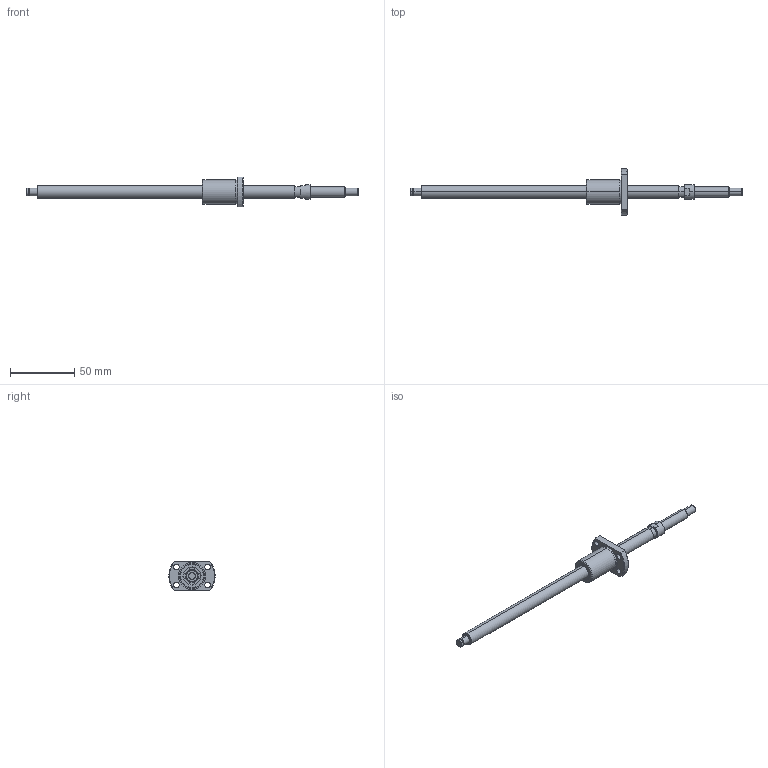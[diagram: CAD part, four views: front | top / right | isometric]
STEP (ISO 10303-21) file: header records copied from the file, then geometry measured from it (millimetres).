
FILE_DESCRIPTION (( 'STEP AP214' ), '1' );
FILE_NAME ('BS1002.5K-3D.STEP', '2014-03-05T15:10:58', ( '' ), ( '' ), 'SwSTEP 2.0', 'SolidWorks 2012', '' );
FILE_SCHEMA (( 'AUTOMOTIVE_DESIGN' ));
Length unit declared in the file: millimetre
Products named in the file (3): BS1002.5Kナット; BS1002.5K軸; BS1002.5K-3D
Assembly tree (2 placements, depth 2):
  BS1002.5K-3D
    BS1002.5K軸
    BS1002.5Kナット
Bounding box: 258 x 36 x 23 mm (x, y, z)
Volume: 38447.9 mm3; surface area: 18958.7 mm2
Topology: 5 solids, 5 shells, 102 faces, 220 edges, 140 vertices
Faces by surface type: cylinder 48, plane 28, cone 26
Entity records: 2987 total; most frequent: DIRECTION 548, CARTESIAN_POINT 503, ORIENTED_EDGE 440, AXIS2_PLACEMENT_3D 233, EDGE_CURVE 220, VERTEX_POINT 140, EDGE_LOOP 128, CIRCLE 126
